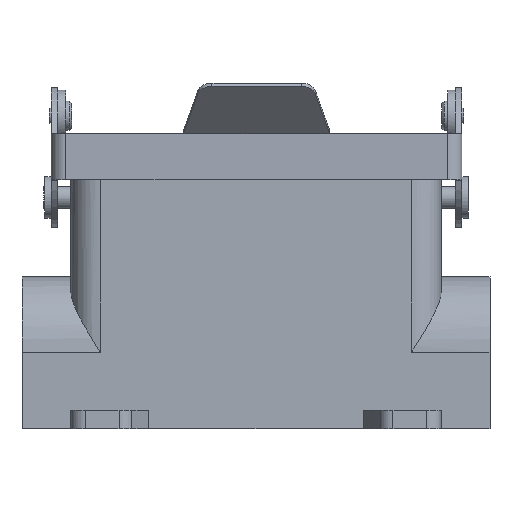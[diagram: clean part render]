
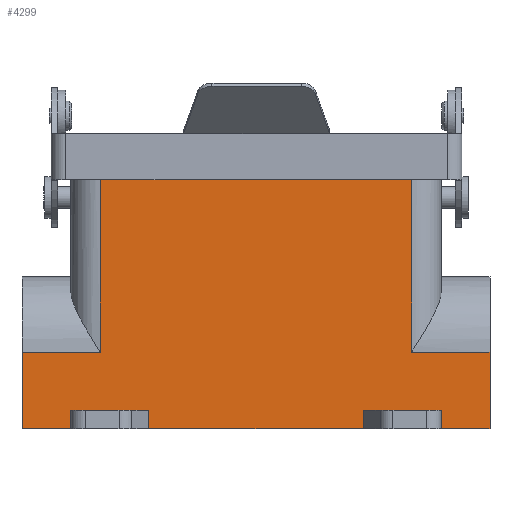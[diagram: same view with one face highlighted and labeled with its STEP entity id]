
A CAD part, top view. The second image highlights one B-rep face of the part: STEP entity #4299.
In plain terms, the highlighted planar face has unit normal (0, 0, 1).
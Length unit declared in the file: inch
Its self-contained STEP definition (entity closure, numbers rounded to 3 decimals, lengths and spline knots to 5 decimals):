
#49 = DIRECTION ( 'NONE',  ( 0., 1., 0. ) ) ;
#64 = VECTOR ( 'NONE', #49, 39.37008 ) ;
#65 = CARTESIAN_POINT ( 'NONE',  ( 1.88727, 0.39212, 0.54096 ) ) ;
#66 = LINE ( 'NONE', #65, #64 ) ;
#128 = CARTESIAN_POINT ( 'NONE',  ( -1.42342, -0.24788, 0.54096 ) ) ;
#129 = DIRECTION ( 'NONE',  ( 0., -1., 0. ) ) ;
#130 = VECTOR ( 'NONE', #129, 39.37008 ) ;
#131 = CARTESIAN_POINT ( 'NONE',  ( -1.42342, -0.89788, 0.54096 ) ) ;
#132 = LINE ( 'NONE', #131, #130 ) ;
#192 = CARTESIAN_POINT ( 'NONE',  ( -1.42342, 1.34622, 0.54096 ) ) ;
#193 = DIRECTION ( 'NONE',  ( -1., 0., 0. ) ) ;
#194 = VECTOR ( 'NONE', #193, 39.37008 ) ;
#195 = CARTESIAN_POINT ( 'NONE',  ( -1.67342, 1.34622, 0.54096 ) ) ;
#196 = LINE ( 'NONE', #195, #194 ) ;
#208 = DIRECTION ( 'NONE',  ( -1., 0., 0. ) ) ;
#209 = VECTOR ( 'NONE', #208, 39.37008 ) ;
#210 = CARTESIAN_POINT ( 'NONE',  ( -2.08911, -0.24788, 0.54096 ) ) ;
#211 = LINE ( 'NONE', #210, #209 ) ;
#3731 = EDGE_CURVE ( 'NONE', #3808, #3851, #8005, .T. ) ;
#3772 = EDGE_CURVE ( 'NONE', #3939, #3842, #8156, .T. ) ;
#3782 = VERTEX_POINT ( 'NONE', #8227 ) ;
#3808 = VERTEX_POINT ( 'NONE', #8393 ) ;
#3837 = VERTEX_POINT ( 'NONE', #8334 ) ;
#3839 = EDGE_CURVE ( 'NONE', #3842, #3916, #8332, .T. ) ;
#3842 = VERTEX_POINT ( 'NONE', #8423 ) ;
#3844 = EDGE_CURVE ( 'NONE', #3782, #3808, #8421, .T. ) ;
#3851 = VERTEX_POINT ( 'NONE', #8488 ) ;
#3853 = EDGE_CURVE ( 'NONE', #3851, #3930, #8487, .T. ) ;
#3916 = VERTEX_POINT ( 'NONE', #8613 ) ;
#3930 = VERTEX_POINT ( 'NONE', #8808 ) ;
#3939 = VERTEX_POINT ( 'NONE', #8775 ) ;
#3995 = EDGE_CURVE ( 'NONE', #4087, #4177, #9075, .T. ) ;
#4038 = VERTEX_POINT ( 'NONE', #9274 ) ;
#4045 = VERTEX_POINT ( 'NONE', #9309 ) ;
#4049 = EDGE_CURVE ( 'NONE', #3837, #3939, #9306, .T. ) ;
#4059 = EDGE_CURVE ( 'NONE', #3782, #3916, #9195, .T. ) ;
#4087 = VERTEX_POINT ( 'NONE', #9256 ) ;
#4097 = ORIENTED_EDGE ( 'NONE', *, *, #3853, .F. ) ;
#4098 = ORIENTED_EDGE ( 'NONE', *, *, #3731, .F. ) ;
#4099 = ORIENTED_EDGE ( 'NONE', *, *, #3844, .F. ) ;
#4100 = ORIENTED_EDGE ( 'NONE', *, *, #4059, .T. ) ;
#4101 = ORIENTED_EDGE ( 'NONE', *, *, #3839, .F. ) ;
#4105 = ORIENTED_EDGE ( 'NONE', *, *, #3772, .F. ) ;
#4106 = ORIENTED_EDGE ( 'NONE', *, *, #4049, .F. ) ;
#4107 = VERTEX_POINT ( 'NONE', #9183 ) ;
#4147 = EDGE_CURVE ( 'NONE', #3837, #4045, #9367, .T. ) ;
#4150 = EDGE_CURVE ( 'NONE', #4038, #3930, #9359, .T. ) ;
#4177 = VERTEX_POINT ( 'NONE', #9437 ) ;
#4182 = EDGE_CURVE ( 'NONE', #4184, #4038, #9436, .T. ) ;
#4184 = VERTEX_POINT ( 'NONE', #9432 ) ;
#4251 = EDGE_CURVE ( 'NONE', #4107, #4087, #9652, .T. ) ;
#4299 = ADVANCED_FACE ( 'NONE', ( #9808 ), #9799, .F. ) ;
#4307 = ORIENTED_EDGE ( 'NONE', *, *, #4331, .T. ) ;
#4330 = ORIENTED_EDGE ( 'NONE', *, *, #4147, .T. ) ;
#4331 = EDGE_CURVE ( 'NONE', #4045, #4107, #66, .T. ) ;
#4349 = EDGE_LOOP ( 'NONE', ( #4382, #4383, #4384, #4387, #4374, #4376, #4377, #4097, #4098, #4099, #4100, #4101, #4105, #4106, #4330, #4307 ) ) ;
#4372 = EDGE_CURVE ( 'NONE', #4386, #4373, #132, .T. ) ;
#4373 = VERTEX_POINT ( 'NONE', #128 ) ;
#4374 = ORIENTED_EDGE ( 'NONE', *, *, #4375, .T. ) ;
#4375 = EDGE_CURVE ( 'NONE', #4373, #4184, #211, .T. ) ;
#4376 = ORIENTED_EDGE ( 'NONE', *, *, #4182, .T. ) ;
#4377 = ORIENTED_EDGE ( 'NONE', *, *, #4150, .T. ) ;
#4382 = ORIENTED_EDGE ( 'NONE', *, *, #4251, .T. ) ;
#4383 = ORIENTED_EDGE ( 'NONE', *, *, #3995, .T. ) ;
#4384 = ORIENTED_EDGE ( 'NONE', *, *, #4385, .T. ) ;
#4385 = EDGE_CURVE ( 'NONE', #4177, #4386, #196, .T. ) ;
#4386 = VERTEX_POINT ( 'NONE', #192 ) ;
#4387 = ORIENTED_EDGE ( 'NONE', *, *, #4372, .T. ) ;
#8002 = DIRECTION ( 'NONE',  ( -1., 0., 0. ) ) ;
#8003 = VECTOR ( 'NONE', #8002, 39.37008 ) ;
#8004 = CARTESIAN_POINT ( 'NONE',  ( -1.67342, -0.7404, 0.54096 ) ) ;
#8005 = LINE ( 'NONE', #8004, #8003 ) ;
#8153 = DIRECTION ( 'NONE',  ( -1., 0., 0. ) ) ;
#8154 = VECTOR ( 'NONE', #8153, 39.37008 ) ;
#8155 = CARTESIAN_POINT ( 'NONE',  ( 1.47158, -0.7404, 0.54096 ) ) ;
#8156 = LINE ( 'NONE', #8155, #8154 ) ;
#8227 = CARTESIAN_POINT ( 'NONE',  ( -1.01342, -0.89788, 0.54096 ) ) ;
#8329 = DIRECTION ( 'NONE',  ( 0., -1., 0. ) ) ;
#8330 = VECTOR ( 'NONE', #8329, 39.37008 ) ;
#8331 = CARTESIAN_POINT ( 'NONE',  ( 0.81158, -0.89788, 0.54096 ) ) ;
#8332 = LINE ( 'NONE', #8331, #8330 ) ;
#8334 = CARTESIAN_POINT ( 'NONE',  ( 1.47158, -0.89788, 0.54096 ) ) ;
#8393 = CARTESIAN_POINT ( 'NONE',  ( -1.01342, -0.7404, 0.54096 ) ) ;
#8418 = DIRECTION ( 'NONE',  ( 0., 1., 0. ) ) ;
#8419 = VECTOR ( 'NONE', #8418, 39.37008 ) ;
#8420 = CARTESIAN_POINT ( 'NONE',  ( -1.01342, -0.89788, 0.54096 ) ) ;
#8421 = LINE ( 'NONE', #8420, #8419 ) ;
#8423 = CARTESIAN_POINT ( 'NONE',  ( 0.81158, -0.7404, 0.54096 ) ) ;
#8484 = DIRECTION ( 'NONE',  ( 0., -1., 0. ) ) ;
#8485 = VECTOR ( 'NONE', #8484, 39.37008 ) ;
#8486 = CARTESIAN_POINT ( 'NONE',  ( -1.67342, -0.89788, 0.54096 ) ) ;
#8487 = LINE ( 'NONE', #8486, #8485 ) ;
#8488 = CARTESIAN_POINT ( 'NONE',  ( -1.67342, -0.7404, 0.54096 ) ) ;
#8613 = CARTESIAN_POINT ( 'NONE',  ( 0.81158, -0.89788, 0.54096 ) ) ;
#8775 = CARTESIAN_POINT ( 'NONE',  ( 1.47158, -0.7404, 0.54096 ) ) ;
#8808 = CARTESIAN_POINT ( 'NONE',  ( -1.67342, -0.89788, 0.54096 ) ) ;
#8975 = DIRECTION ( 'NONE',  ( 0., 1., 0. ) ) ;
#9026 = VECTOR ( 'NONE', #8975, 39.37008 ) ;
#9027 = CARTESIAN_POINT ( 'NONE',  ( 1.22158, -0.89788, 0.54096 ) ) ;
#9075 = LINE ( 'NONE', #9027, #9026 ) ;
#9183 = CARTESIAN_POINT ( 'NONE',  ( 1.88727, -0.24788, 0.54096 ) ) ;
#9193 = VECTOR ( 'NONE', #9272, 39.37008 ) ;
#9194 = CARTESIAN_POINT ( 'NONE',  ( 1.88727, -0.89788, 0.54096 ) ) ;
#9195 = LINE ( 'NONE', #9194, #9193 ) ;
#9256 = CARTESIAN_POINT ( 'NONE',  ( 1.22158, -0.24788, 0.54096 ) ) ;
#9272 = DIRECTION ( 'NONE',  ( 1., 0., 0. ) ) ;
#9274 = CARTESIAN_POINT ( 'NONE',  ( -2.08911, -0.89788, 0.54096 ) ) ;
#9303 = DIRECTION ( 'NONE',  ( 0., 1., 0. ) ) ;
#9304 = VECTOR ( 'NONE', #9303, 39.37008 ) ;
#9305 = CARTESIAN_POINT ( 'NONE',  ( 1.47158, -0.89788, 0.54096 ) ) ;
#9306 = LINE ( 'NONE', #9305, #9304 ) ;
#9309 = CARTESIAN_POINT ( 'NONE',  ( 1.88727, -0.89788, 0.54096 ) ) ;
#9356 = DIRECTION ( 'NONE',  ( 1., 0., 0. ) ) ;
#9357 = VECTOR ( 'NONE', #9356, 39.37008 ) ;
#9358 = CARTESIAN_POINT ( 'NONE',  ( 1.88727, -0.89788, 0.54096 ) ) ;
#9359 = LINE ( 'NONE', #9358, #9357 ) ;
#9360 = DIRECTION ( 'NONE',  ( 1., 0., 0. ) ) ;
#9361 = VECTOR ( 'NONE', #9360, 39.37008 ) ;
#9362 = CARTESIAN_POINT ( 'NONE',  ( 1.88727, -0.89788, 0.54096 ) ) ;
#9367 = LINE ( 'NONE', #9362, #9361 ) ;
#9432 = CARTESIAN_POINT ( 'NONE',  ( -2.08911, -0.24788, 0.54096 ) ) ;
#9433 = DIRECTION ( 'NONE',  ( 0., -1., 0. ) ) ;
#9434 = VECTOR ( 'NONE', #9433, 39.37008 ) ;
#9435 = CARTESIAN_POINT ( 'NONE',  ( -2.08911, -0.89788, 0.54096 ) ) ;
#9436 = LINE ( 'NONE', #9435, #9434 ) ;
#9437 = CARTESIAN_POINT ( 'NONE',  ( 1.22158, 1.34622, 0.54096 ) ) ;
#9649 = DIRECTION ( 'NONE',  ( -1., 0., 0. ) ) ;
#9650 = VECTOR ( 'NONE', #9649, 39.37008 ) ;
#9651 = CARTESIAN_POINT ( 'NONE',  ( -2.08911, -0.24788, 0.54096 ) ) ;
#9652 = LINE ( 'NONE', #9651, #9650 ) ;
#9795 = DIRECTION ( 'NONE',  ( -1., 0., 0. ) ) ;
#9796 = DIRECTION ( 'NONE',  ( 0., 0., -1. ) ) ;
#9797 = CARTESIAN_POINT ( 'NONE',  ( -2.08911, -0.89788, 0.54096 ) ) ;
#9798 = AXIS2_PLACEMENT_3D ( 'NONE', #9797, #9796, #9795 ) ;
#9799 = PLANE ( 'NONE',  #9798 ) ;
#9808 = FACE_OUTER_BOUND ( 'NONE', #4349, .T. ) ;
